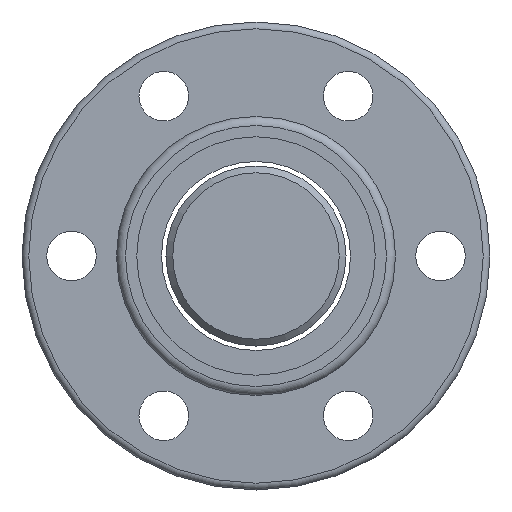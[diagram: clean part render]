
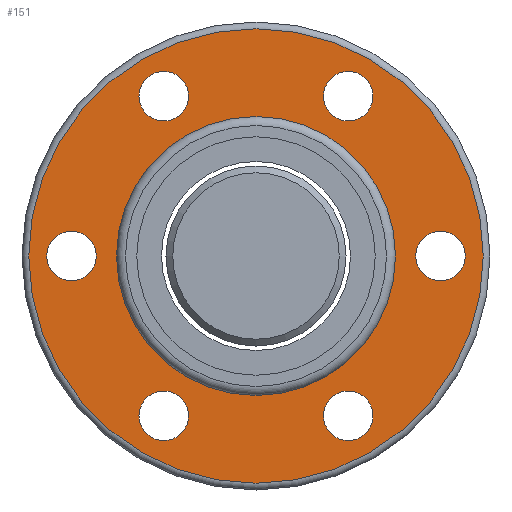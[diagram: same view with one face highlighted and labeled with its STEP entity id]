
A CAD part, left-side view. The second image highlights one B-rep face of the part: STEP entity #151.
In plain terms, the highlighted planar face has unit normal (-1, 0, 0).
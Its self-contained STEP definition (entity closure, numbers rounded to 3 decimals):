
#151=ADVANCED_FACE('',(#234,#235,#236,#237,#238,#239,#321,#240),#201,.F.);
#201=PLANE('',#795);
#234=FACE_BOUND('',#359,.T.);
#235=FACE_BOUND('',#360,.T.);
#236=FACE_BOUND('',#361,.T.);
#237=FACE_BOUND('',#362,.T.);
#238=FACE_BOUND('',#363,.T.);
#239=FACE_BOUND('',#364,.T.);
#240=FACE_BOUND('',#366,.T.);
#321=FACE_OUTER_BOUND('',#365,.T.);
#359=EDGE_LOOP('',(#481));
#360=EDGE_LOOP('',(#482));
#361=EDGE_LOOP('',(#483));
#362=EDGE_LOOP('',(#484));
#363=EDGE_LOOP('',(#485));
#364=EDGE_LOOP('',(#486));
#365=EDGE_LOOP('',(#487));
#366=EDGE_LOOP('',(#488));
#481=ORIENTED_EDGE('',*,*,#656,.T.);
#482=ORIENTED_EDGE('',*,*,#657,.T.);
#483=ORIENTED_EDGE('',*,*,#658,.T.);
#484=ORIENTED_EDGE('',*,*,#659,.T.);
#485=ORIENTED_EDGE('',*,*,#660,.T.);
#486=ORIENTED_EDGE('',*,*,#661,.T.);
#487=ORIENTED_EDGE('',*,*,#662,.F.);
#488=ORIENTED_EDGE('',*,*,#654,.T.);
#593=VERTEX_POINT('',#1148);
#595=VERTEX_POINT('',#1153);
#596=VERTEX_POINT('',#1155);
#597=VERTEX_POINT('',#1157);
#598=VERTEX_POINT('',#1159);
#599=VERTEX_POINT('',#1161);
#600=VERTEX_POINT('',#1163);
#601=VERTEX_POINT('',#1165);
#654=EDGE_CURVE('',#593,#593,#715,.T.);
#656=EDGE_CURVE('',#595,#595,#717,.T.);
#657=EDGE_CURVE('',#596,#596,#718,.T.);
#658=EDGE_CURVE('',#597,#597,#719,.T.);
#659=EDGE_CURVE('',#598,#598,#720,.T.);
#660=EDGE_CURVE('',#599,#599,#721,.T.);
#661=EDGE_CURVE('',#600,#600,#722,.T.);
#662=EDGE_CURVE('',#601,#601,#723,.T.);
#715=CIRCLE('',#785,31.);
#717=CIRCLE('',#788,5.5);
#718=CIRCLE('',#789,5.5);
#719=CIRCLE('',#790,5.5);
#720=CIRCLE('',#791,5.5);
#721=CIRCLE('',#792,5.5);
#722=CIRCLE('',#793,5.5);
#723=CIRCLE('',#794,50.5);
#785=AXIS2_PLACEMENT_3D('',#1147,#920,#921);
#788=AXIS2_PLACEMENT_3D('',#1152,#926,#927);
#789=AXIS2_PLACEMENT_3D('',#1154,#928,#929);
#790=AXIS2_PLACEMENT_3D('',#1156,#930,#931);
#791=AXIS2_PLACEMENT_3D('',#1158,#932,#933);
#792=AXIS2_PLACEMENT_3D('',#1160,#934,#935);
#793=AXIS2_PLACEMENT_3D('',#1162,#936,#937);
#794=AXIS2_PLACEMENT_3D('',#1164,#938,#939);
#795=AXIS2_PLACEMENT_3D('',#1166,#940,#941);
#920=DIRECTION('',(1.,0.,0.));
#921=DIRECTION('',(0.,1.,0.));
#926=DIRECTION('',(1.,0.,0.));
#927=DIRECTION('',(0.,1.,0.));
#928=DIRECTION('',(1.,0.,0.));
#929=DIRECTION('',(0.,1.,0.));
#930=DIRECTION('',(1.,0.,0.));
#931=DIRECTION('',(0.,1.,0.));
#932=DIRECTION('',(1.,0.,0.));
#933=DIRECTION('',(0.,1.,0.));
#934=DIRECTION('',(1.,0.,0.));
#935=DIRECTION('',(0.,1.,0.));
#936=DIRECTION('',(1.,0.,0.));
#937=DIRECTION('',(0.,1.,0.));
#938=DIRECTION('',(1.,0.,0.));
#939=DIRECTION('',(0.,1.,0.));
#940=DIRECTION('',(1.,0.,0.));
#941=DIRECTION('',(0.,1.,0.));
#1147=CARTESIAN_POINT('',(-33.,0.,0.));
#1148=CARTESIAN_POINT('',(-33.,31.,0.));
#1152=CARTESIAN_POINT('',(-33.,20.5,-35.507));
#1153=CARTESIAN_POINT('',(-33.,26.,-35.507));
#1154=CARTESIAN_POINT('',(-33.,-20.5,-35.507));
#1155=CARTESIAN_POINT('',(-33.,-15.,-35.507));
#1156=CARTESIAN_POINT('',(-33.,-41.,0.));
#1157=CARTESIAN_POINT('',(-33.,-35.5,0.));
#1158=CARTESIAN_POINT('',(-33.,-20.5,35.507));
#1159=CARTESIAN_POINT('',(-33.,-15.,35.507));
#1160=CARTESIAN_POINT('',(-33.,20.5,35.507));
#1161=CARTESIAN_POINT('',(-33.,26.,35.507));
#1162=CARTESIAN_POINT('',(-33.,41.,0.));
#1163=CARTESIAN_POINT('',(-33.,46.5,0.));
#1164=CARTESIAN_POINT('',(-33.,0.,0.));
#1165=CARTESIAN_POINT('',(-33.,50.5,0.));
#1166=CARTESIAN_POINT('',(-33.,40.75,0.));
